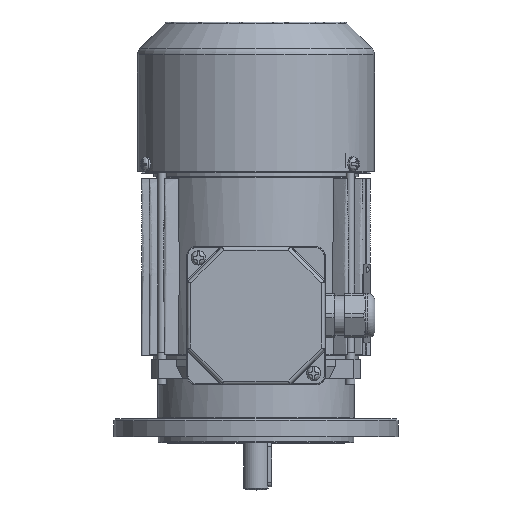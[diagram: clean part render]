
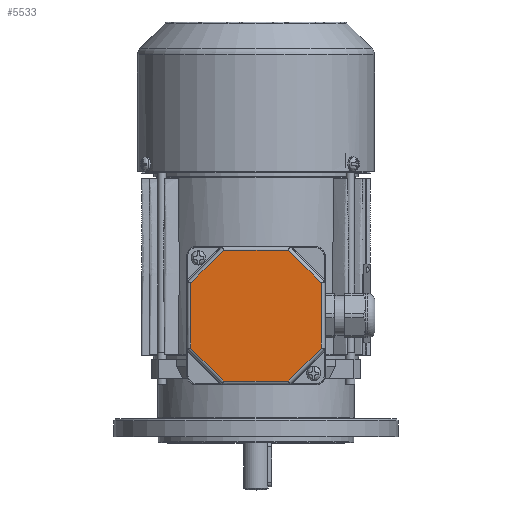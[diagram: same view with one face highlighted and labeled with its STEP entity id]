
A CAD part, top view. The second image highlights one B-rep face of the part: STEP entity #5533.
In plain terms, the highlighted planar face has unit normal (0, 0, 1).
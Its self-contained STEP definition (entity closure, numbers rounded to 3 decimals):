
#5533 = ADVANCED_FACE( '', ( #11649 ), #11650, .T. );
#11649 = FACE_OUTER_BOUND( '', #41500, .T. );
#11650 = PLANE( '', #41501 );
#41500 = EDGE_LOOP( '', ( #65757, #65758, #65759, #65760, #65761, #65762, #65763, #65764 ) );
#41501 = AXIS2_PLACEMENT_3D( '', #65765, #65766, #65767 );
#65757 = ORIENTED_EDGE( '', *, *, #73192, .T. );
#65758 = ORIENTED_EDGE( '', *, *, #79011, .T. );
#65759 = ORIENTED_EDGE( '', *, *, #75856, .T. );
#65760 = ORIENTED_EDGE( '', *, *, #79012, .T. );
#65761 = ORIENTED_EDGE( '', *, *, #79013, .T. );
#65762 = ORIENTED_EDGE( '', *, *, #78679, .T. );
#65763 = ORIENTED_EDGE( '', *, *, #78654, .T. );
#65764 = ORIENTED_EDGE( '', *, *, #79014, .T. );
#65765 = CARTESIAN_POINT( '', ( -39., 39., 12. ) );
#65766 = DIRECTION( '', ( 0., 0., 1. ) );
#65767 = DIRECTION( '', ( 1., 0., 0. ) );
#73192 = EDGE_CURVE( '', #81051, #81049, #81052, .F. );
#75856 = EDGE_CURVE( '', #85615, #85616, #85617, .F. );
#78654 = EDGE_CURVE( '', #89610, #89611, #89612, .F. );
#78679 = EDGE_CURVE( '', #89144, #89610, #89639, .T. );
#79011 = EDGE_CURVE( '', #81049, #85615, #90049, .T. );
#79012 = EDGE_CURVE( '', #85616, #88687, #90050, .T. );
#79013 = EDGE_CURVE( '', #88687, #89144, #90051, .F. );
#79014 = EDGE_CURVE( '', #89611, #81051, #90052, .T. );
#81049 = VERTEX_POINT( '', #93035 );
#81051 = VERTEX_POINT( '', #93037 );
#81052 = LINE( '', #93038, #93039 );
#85615 = VERTEX_POINT( '', #108335 );
#85616 = VERTEX_POINT( '', #108336 );
#85617 = LINE( '', #108337, #108338 );
#88687 = VERTEX_POINT( '', #120695 );
#89144 = VERTEX_POINT( '', #122592 );
#89610 = VERTEX_POINT( '', #123976 );
#89611 = VERTEX_POINT( '', #123977 );
#89612 = LINE( '', #123978, #123979 );
#89639 = LINE( '', #124196, #124197 );
#90049 = LINE( '', #125526, #125527 );
#90050 = LINE( '', #125528, #125529 );
#90051 = LINE( '', #125530, #125531 );
#90052 = LINE( '', #125532, #125533 );
#93035 = CARTESIAN_POINT( '', ( 36.825, 18.255, 12. ) );
#93037 = CARTESIAN_POINT( '', ( 36.825, -18.255, 12. ) );
#93038 = CARTESIAN_POINT( '', ( 36.825, 19.069, 12. ) );
#93039 = VECTOR( '', #131158, 1000. );
#108335 = CARTESIAN_POINT( '', ( 18.255, 36.825, 12. ) );
#108336 = CARTESIAN_POINT( '', ( -18.255, 36.825, 12. ) );
#108337 = CARTESIAN_POINT( '', ( -19.069, 36.825, 12. ) );
#108338 = VECTOR( '', #134529, 1000. );
#120695 = CARTESIAN_POINT( '', ( -36.825, 18.255, 12. ) );
#122592 = CARTESIAN_POINT( '', ( -36.825, -18.255, 12. ) );
#123976 = CARTESIAN_POINT( '', ( -18.255, -36.825, 12. ) );
#123977 = CARTESIAN_POINT( '', ( 18.255, -36.825, 12. ) );
#123978 = CARTESIAN_POINT( '', ( 19.069, -36.825, 12. ) );
#123979 = VECTOR( '', #137352, 1000. );
#124196 = CARTESIAN_POINT( '', ( -17.679, -37.401, 12. ) );
#124197 = VECTOR( '', #137376, 1000. );
#125526 = CARTESIAN_POINT( '', ( 17.679, 37.401, 12. ) );
#125527 = VECTOR( '', #137670, 1000. );
#125528 = CARTESIAN_POINT( '', ( -37.401, 17.679, 12. ) );
#125529 = VECTOR( '', #137671, 1000. );
#125530 = CARTESIAN_POINT( '', ( -36.825, -19.069, 12. ) );
#125531 = VECTOR( '', #137672, 1000. );
#125532 = CARTESIAN_POINT( '', ( 37.401, -17.679, 12. ) );
#125533 = VECTOR( '', #137673, 1000. );
#131158 = DIRECTION( '', ( 0., -1., 0. ) );
#134529 = DIRECTION( '', ( 1., 0., 0. ) );
#137352 = DIRECTION( '', ( -1., 0., 0. ) );
#137376 = DIRECTION( '', ( 0.707, -0.707, 0. ) );
#137670 = DIRECTION( '', ( -0.707, 0.707, 0. ) );
#137671 = DIRECTION( '', ( -0.707, -0.707, 0. ) );
#137672 = DIRECTION( '', ( 0., 1., 0. ) );
#137673 = DIRECTION( '', ( 0.707, 0.707, 0. ) );
